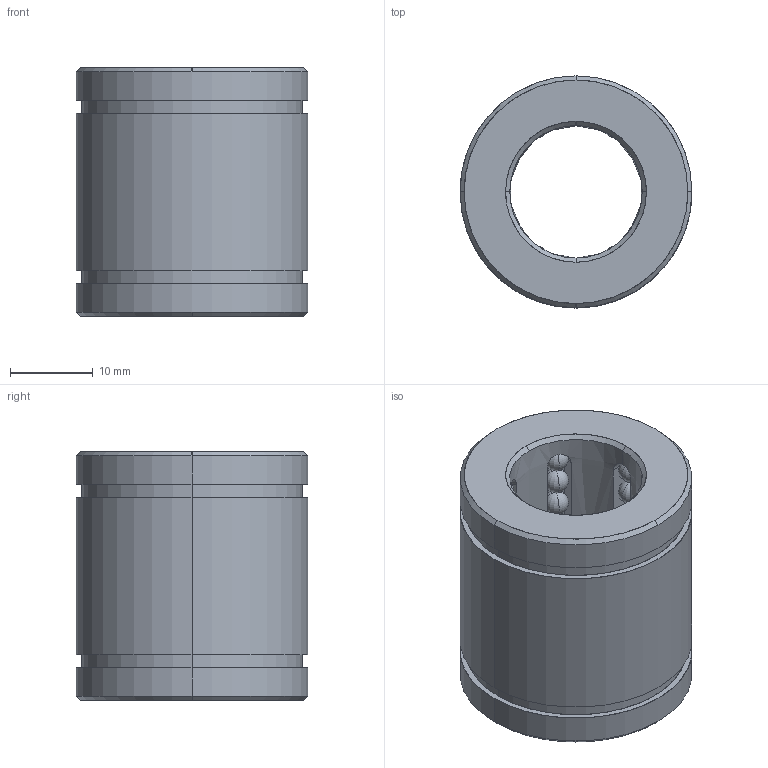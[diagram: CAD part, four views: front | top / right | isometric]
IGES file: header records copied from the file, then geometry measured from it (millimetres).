
Start section: START RECORD GO HERE.
Global section: file name: B8031630.igs; native system: DASSAULT SYSTEMES CATIA V5 R20 - www.3ds.com; preprocessor: CATIA Version 5 Release 20 ; author: Utente; organization: NB04-ASUS; date: 20200419.161833; units: millimetre
Bounding box: 28 x 28 x 30 mm (x, y, z)
Surface area: 7457.9 mm2 (no closed solid volume)
Topology: 0 solids, 0 shells, 256 faces, 1076 edges, 692 vertices
Faces by surface type: revolution 232, plane 24
